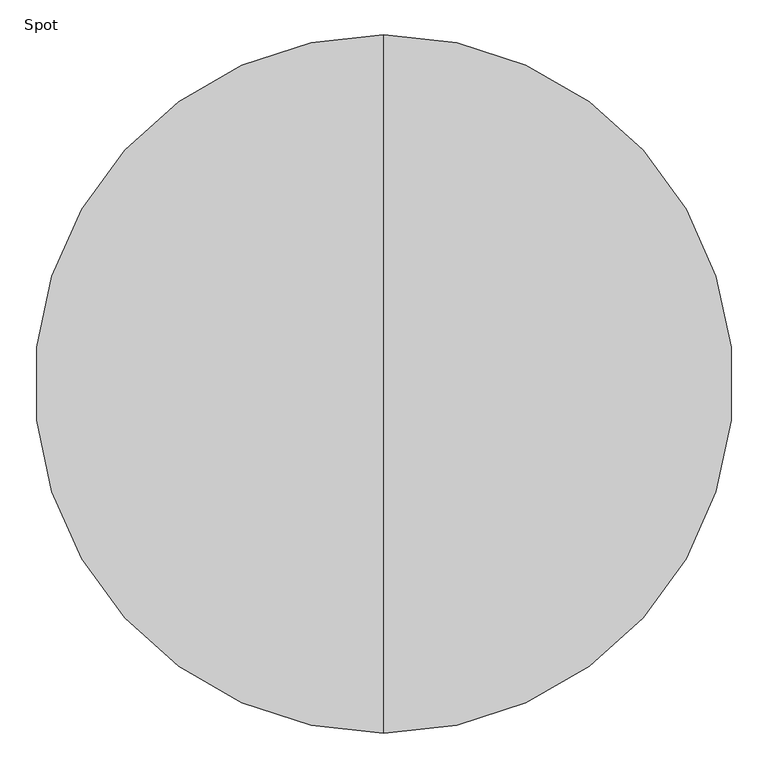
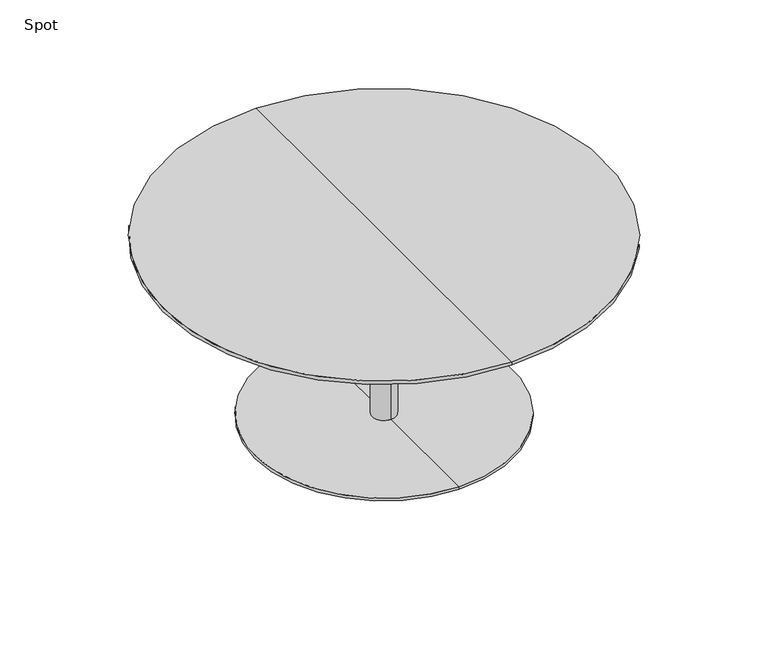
"""IFC4 building model written with IfcOpenShell, lengths in millimetres: furniture geometry, Spot : ø120x52."""

import ifcopenshell
import ifcopenshell.guid

model = None  # the IFC model being written
_history = None  # IfcOwnerHistory: only IFC2X3 demands one
_inside = {}  # id of a spatial element -> (the spatial element, [elements in it])
_under = {}  # id of a project, library or spatial element -> (it, [spatial elements below it])
_declared = {}  # id of a project -> (the project, [libraries it declares])
_typed = {}  # id of a type object -> (the type object, [elements of that type])
_made_of = {}  # id of a material, layer set ... -> (it, [elements and type objects made of it])


def new_model(schema):
    """Start an empty IFC model of exactly this schema.

    Asked for "IFC4X3", IfcOpenShell would pick the latest addendum, in which some entities
    have other attributes; the version numbers below select the first issue.
    IFC2X3 requires an IfcOwnerHistory on every rooted entity: one is made here for all.
    """
    global model, _history
    if schema == "IFC4X3":
        model = ifcopenshell.file(schema_version=(4, 3, 0, 0))
    else:
        model = ifcopenshell.file(schema=schema)
    _inside.clear()
    _under.clear()
    _declared.clear()
    _typed.clear()
    _made_of.clear()
    _history = None
    if model.schema == "IFC2X3":
        org = make("IfcOrganization", Name="unknown")
        user = make(
            "IfcPersonAndOrganization",
            ThePerson=make("IfcPerson", FamilyName="unknown"),
            TheOrganization=org,
        )
        app = make(
            "IfcApplication",
            ApplicationDeveloper=org,
            Version="unknown",
            ApplicationFullName="unknown",
            ApplicationIdentifier="unknown",
        )
        _history = make(
            "IfcOwnerHistory",
            OwningUser=user,
            OwningApplication=app,
            ChangeAction="ADDED",
            CreationDate=0,
        )
    return model


def make(cls, **values):
    """One entity of the class cls with the attributes given. An attribute that is None is left unset."""
    return model.create_entity(
        cls, **{name: value for name, value in values.items() if value is not None}
    )


def rooted(cls, **values):
    """An entity with a GlobalId (a new one), such as an element, a storey or a relation."""
    return make(cls, GlobalId=ifcopenshell.guid.new(), OwnerHistory=_history, **values)


def si_unit(unit_type, name, prefix=None):
    """IfcSIUnit, for example si_unit("LENGTHUNIT", "METRE", prefix="MILLI")."""
    return make("IfcSIUnit", UnitType=unit_type, Prefix=prefix, Name=name)


def assignment(units):
    """IfcUnitAssignment: the units of a project."""
    return None if units is None else make("IfcUnitAssignment", Units=units)


def point(xyz):
    """IfcCartesianPoint."""
    return None if xyz is None else make("IfcCartesianPoint", Coordinates=xyz)


def direction(xyz):
    """IfcDirection."""
    return None if xyz is None else make("IfcDirection", DirectionRatios=xyz)


def frame(location, z_axis=None, x_axis=None):
    """IfcAxis2Placement3D, a coordinate frame: its origin and axes. An axis left out is left unset."""
    return make(
        "IfcAxis2Placement3D",
        Location=point(location),
        Axis=direction(z_axis),
        RefDirection=direction(x_axis),
    )


def origin():
    """The frame at (0, 0, 0) with its axes left unset."""
    return frame((0.0, 0.0, 0.0))


def place(relative_to, where):
    """IfcLocalPlacement: puts the frame where relative to a parent placement (None: the world)."""
    return make(
        "IfcLocalPlacement", PlacementRelTo=relative_to, RelativePlacement=where
    )


def context(
    kind, dimensions, precision=None, world=None, true_north=None, identifier=None
):
    """IfcGeometricRepresentationContext, for example the 3D "Model" context."""
    return make(
        "IfcGeometricRepresentationContext",
        ContextIdentifier=identifier,
        ContextType=kind,
        CoordinateSpaceDimension=dimensions,
        Precision=precision,
        WorldCoordinateSystem=world,
        TrueNorth=true_north,
    )


def project(units=None, contexts=None):
    """IfcProject with its units and contexts."""
    return rooted(
        "IfcProject",
        Name="project",
        RepresentationContexts=contexts,
        UnitsInContext=assignment(units),
    )


def spatial(cls, under=None, at=None, **own):
    """A site, building, storey or space (cls), placed at a placement, below another one or the project."""
    s = rooted(cls, ObjectPlacement=at, **own)
    if under is not None:
        _under.setdefault(under.id(), (under, []))[1].append(s)
    return s


def polyline(points):
    """IfcPolyline through the points."""
    return make("IfcPolyline", Points=[point(p) for p in points])


def circle_curve(where, radius):
    """IfcCircle in the frame where."""
    return make("IfcCircle", Position=where, Radius=radius)


def shape(context_of_items, identifier, shape_type, items):
    """IfcShapeRepresentation: the items that make up one representation, for example the "Body"."""
    return make(
        "IfcShapeRepresentation",
        ContextOfItems=context_of_items,
        RepresentationIdentifier=identifier,
        RepresentationType=shape_type,
        Items=items,
    )


def source(mapping_origin, context_of_items, identifier, shape_type, items):
    """IfcRepresentationMap: a shape defined once, which mapped items show again and again."""
    return make(
        "IfcRepresentationMap",
        MappingOrigin=mapping_origin,
        MappedRepresentation=shape(context_of_items, identifier, shape_type, items),
    )


def transform(
    local_origin,
    x_axis=None,
    y_axis=None,
    z_axis=None,
    scale=None,
    scale2=None,
    scale3=None,
    uniform=True,
):
    """IfcCartesianTransformationOperator3D, or its non-uniform kind. x_axis, y_axis, z_axis: its Axis1, 2, 3."""
    if uniform:
        return make(
            "IfcCartesianTransformationOperator3D",
            Axis1=direction(x_axis),
            Axis2=direction(y_axis),
            LocalOrigin=point(local_origin),
            Scale=scale,
            Axis3=direction(z_axis),
        )
    return make(
        "IfcCartesianTransformationOperator3DnonUniform",
        Axis1=direction(x_axis),
        Axis2=direction(y_axis),
        LocalOrigin=point(local_origin),
        Scale=scale,
        Axis3=direction(z_axis),
        Scale2=scale2,
        Scale3=scale3,
    )


def mapped(mapping_source, mapping_target):
    """IfcMappedItem: shows the shape of a source again, moved by a transform."""
    return make(
        "IfcMappedItem", MappingSource=mapping_source, MappingTarget=mapping_target
    )


def made_of(thing, what):
    """Note that an element or type object is made of a material, layer set ...; save() writes the relation."""
    if what is not None:
        _made_of.setdefault(what.id(), (what, []))[1].append(thing)
    return thing


def element(
    cls,
    number,
    at=None,
    inside=None,
    cuts=None,
    type_object=None,
    material=None,
    context=None,
    identifier="Body",
    shape_type=None,
    held_by="IfcProductDefinitionShape",
    body=None,
    shapes=None,
    **own,
):
    """One element of the class cls, such as IfcWall. Its Tag is "e" and its number.

    at: its placement. inside: the storey or other place that contains it. cuts: it is an
    opening in that element (IfcRelVoidsElement). A single representation is given by context,
    identifier, shape_type and body (its items); several are given by shapes. held_by: the class
    of the entity that holds the representations. save() writes the other relations.
    """
    e = rooted(cls, Tag="e%d" % number, ObjectPlacement=at, **own)
    if body is not None:
        shapes = [shape(context, identifier, shape_type, body)]
    if shapes is not None:
        e.Representation = make(held_by, Representations=shapes)
    if inside is not None:
        _inside.setdefault(inside.id(), (inside, []))[1].append(e)
    if cuts is not None:
        rooted(
            "IfcRelVoidsElement", RelatingBuildingElement=cuts, RelatedOpeningElement=e
        )
    if type_object is not None:
        _typed.setdefault(type_object.id(), (type_object, []))[1].append(e)
    return made_of(e, material)


def aggregate(whole, parts):
    """IfcRelAggregates: a whole, such as a stair, and the parts it consists of."""
    return rooted("IfcRelAggregates", RelatingObject=whole, RelatedObjects=parts)


def save(model, path):
    """Write the relations noted so far, then the file.

    IfcRelAggregates (storeys below a building ...), IfcRelContainedInSpatialStructure (elements
    in a storey), IfcRelDefinesByType, IfcRelAssociatesMaterial and IfcRelDeclares: one each for
    every whole, place, type object, material and project.
    """
    for whole, parts in _under.values():
        aggregate(whole, parts)
    for where, things in _inside.values():
        rooted(
            "IfcRelContainedInSpatialStructure",
            RelatedElements=things,
            RelatingStructure=where,
        )
    for kind, things in _typed.values():
        rooted("IfcRelDefinesByType", RelatedObjects=things, RelatingType=kind)
    for what, things in _made_of.values():
        rooted("IfcRelAssociatesMaterial", RelatedObjects=things, RelatingMaterial=what)
    for by, libraries in _declared.values():
        rooted("IfcRelDeclares", RelatingContext=by, RelatedDefinitions=libraries)
    model.write(path)


def plane_surface(at):
    """IfcPlane: the flat surface through the origin of the frame at, square to its z axis."""
    return make("IfcPlane", Position=at)


def cylinder_surface(at, radius):
    """IfcCylindricalSurface: all points at the distance radius from the z axis of the frame at."""
    return make("IfcCylindricalSurface", Position=at, Radius=radius)


def revolved_surface(curve, axis_point, axis_direction):
    """IfcSurfaceOfRevolution: the curve turned about the line through axis_point along axis_direction."""
    return make(
        "IfcSurfaceOfRevolution",
        SweptCurve=make("IfcArbitraryOpenProfileDef", ProfileType="CURVE", Curve=curve),
        AxisPosition=make("IfcAxis1Placement", Location=point(axis_point), Axis=direction(axis_direction)),
    )


def advanced_brep(points, edges, surfaces, faces):
    """IfcAdvancedBrep: a solid bounded by faces that lie on surfaces and meet in shared edges.

    An edge is (start, end): straight between two places in points (the first is 0);
    or (start, end, curve); or (start, end, curve, False) where it runs against its curve.
    A face is (place in surfaces, loops), or (place, loops, False) where it looks against
    its surface's normal. A loop lists edges by number (the first is 1), with a minus sign
    where the edge is run from its end to its start. The first loop is the outer one.
    """
    corners = [point(p) for p in points]
    vertices = [make("IfcVertexPoint", VertexGeometry=c) for c in corners]
    made = []
    for start, end, *more in edges:
        made.append(
            make(
                "IfcEdgeCurve",
                EdgeStart=vertices[start],
                EdgeEnd=vertices[end],
                EdgeGeometry=more[0] if more else make("IfcPolyline", Points=[corners[start], corners[end]]),
                SameSense=more[1] if len(more) > 1 else True,
            )
        )
    hull = []
    for where, loops, *sense in faces:
        bounds = []
        for j, loop in enumerate(loops):
            ring = [make("IfcOrientedEdge", EdgeElement=made[abs(k) - 1], Orientation=k > 0) for k in loop]
            bounds.append(
                make(
                    "IfcFaceOuterBound" if j == 0 else "IfcFaceBound",
                    Bound=make("IfcEdgeLoop", EdgeList=ring),
                    Orientation=True,
                )
            )
        hull.append(make("IfcAdvancedFace", Bounds=bounds, FaceSurface=surfaces[where], SameSense=sense[0] if sense else True))
    return make("IfcAdvancedBrep", Outer=make("IfcClosedShell", CfsFaces=hull))


def spot_f8256496(model_context):
    return source(origin(), model_context, "Body", "AdvancedBrep", [
        advanced_brep(
        [(0.0, -600.0, 520.0), (0.0, 600.0, 520.0), (0.0, 0.0, 520.0), (0.0, 600.0, 510.25), (0.0, -600.0, 510.25), (0.0, 0.0, 498.0), (0.0, -554.2823776, 498.0), (0.0, 554.2823776, 498.0)],
        [
            (0, 1, circle_curve(frame((0.0, 0.0, 520.0), z_axis=(0.0, 0.0, 1.0), x_axis=(0.0, -1.0, 0.0)), 600.0)),
            (1, 2),
            (2, 0),
            (3, 4, circle_curve(frame((0.0, 0.0, 510.25), z_axis=(0.0, 0.0, 1.0), x_axis=(0.0, -1.0, 0.0)), 600.0)),
            (4, 0),
            (0, 1, circle_curve(frame((0.0, 0.0, 520.0), z_axis=(0.0, 0.0, -1.0), x_axis=(0.0, -1.0, 0.0)), 600.0)),
            (1, 3),
            (5, 6),
            (6, 7, circle_curve(frame((0.0, 0.0, 498.0), z_axis=(0.0, 0.0, -1.0), x_axis=(0.0, -1.0, 0.0)), 554.2823776)),
            (7, 5),
            (7, 6, circle_curve(frame((0.0, 0.0, 498.0), z_axis=(0.0, 0.0, -1.0), x_axis=(0.0, -1.0, 0.0)), 554.2823776)),
            (4, 3, circle_curve(frame((0.0, 0.0, 510.25), z_axis=(0.0, 0.0, 1.0), x_axis=(0.0, -1.0, 0.0)), 600.0)),
            (6, 4),
            (3, 7),
        ],
        [
            plane_surface(frame((0.0, 0.0, 520.0), z_axis=(0.0, 0.0, 1.0), x_axis=(0.0, -1.0, 0.0))),
            cylinder_surface(frame((0.0, 0.0, 600.0), z_axis=(0.0, 0.0, -1.0), x_axis=(0.0, -1.0, 0.0)), 600.0),
            plane_surface(frame((0.0, 0.0, 498.0), z_axis=(0.0, 0.0, -1.0), x_axis=(0.0, -1.0, 0.0))),
            revolved_surface(polyline([(0.0, -600.0, 510.25), (0.0, -554.2823776, 498.0)]), (0.0, 0.0, 600.0), (0.0, 0.0, -1.0)),
        ],
        [
            (0, [[1, 2, 3]]),
            (1, [[4, 5, 6, 7]]),
            (2, [[8, 9, 10]]),
            (2, [[-10, 11, -8]]),
            (0, [[-6, -3, -2]]),
            (1, [[12, -7, -1, -5]]),
            (3, [[-9, 13, -4, 14]]),
            (3, [[-11, -14, -12, -13]]),
        ],
    ),
        advanced_brep(
        [(0.0, 32.0, 10.0), (0.0, -32.0, 10.0), (0.0, -32.0, 467.406916), (0.0, 32.0, 467.406916), (0.0, 350.0, 10.0), (0.0, -350.0, 10.0), (0.0, 350.0, 2.0), (0.0, -350.0, 2.0), (0.0, 0.0, 2.0), (0.0, 150.0, 498.0), (0.0, -150.0, 498.0), (0.0, 0.0, 498.0), (0.0, 150.0, 486.7213673), (0.0, -150.0, 486.7213673)],
        [
            (0, 1, circle_curve(frame((0.0, 0.0, 10.0), z_axis=(0.0, 0.0, 1.0), x_axis=(0.0, -1.0, 0.0)), 32.0)),
            (1, 2),
            (2, 3, circle_curve(frame((0.0, 0.0, 467.406916), z_axis=(0.0, 0.0, -1.0), x_axis=(0.0, -1.0, 0.0)), 32.0)),
            (3, 0),
            (1, 0, circle_curve(frame((0.0, 0.0, 10.0), z_axis=(0.0, 0.0, 1.0), x_axis=(0.0, -1.0, 0.0)), 32.0)),
            (3, 2, circle_curve(frame((0.0, 0.0, 467.406916), z_axis=(0.0, 0.0, -1.0), x_axis=(0.0, -1.0, 0.0)), 32.0)),
            (4, 5, circle_curve(frame((0.0, 0.0, 10.0), z_axis=(0.0, 0.0, 1.0), x_axis=(0.0, -1.0, 0.0)), 350.0)),
            (5, 1),
            (0, 4),
            (5, 4, circle_curve(frame((0.0, 0.0, 10.0), z_axis=(0.0, 0.0, 1.0), x_axis=(0.0, -1.0, 0.0)), 350.0)),
            (6, 7, circle_curve(frame((0.0, 0.0, 2.0), z_axis=(0.0, 0.0, 1.0), x_axis=(0.0, -1.0, 0.0)), 350.0)),
            (7, 5),
            (4, 6),
            (7, 6, circle_curve(frame((0.0, 0.0, 2.0), z_axis=(0.0, 0.0, 1.0), x_axis=(0.0, -1.0, 0.0)), 350.0)),
            (8, 7),
            (6, 8),
            (9, 10, circle_curve(frame((0.0, 0.0, 498.0), z_axis=(0.0, 0.0, 1.0), x_axis=(0.0, -1.0, 0.0)), 150.0)),
            (10, 11),
            (11, 9),
            (10, 9, circle_curve(frame((0.0, 0.0, 498.0), z_axis=(0.0, 0.0, 1.0), x_axis=(0.0, -1.0, 0.0)), 150.0)),
            (12, 13, circle_curve(frame((0.0, 0.0, 486.7213673), z_axis=(0.0, 0.0, 1.0), x_axis=(0.0, -1.0, 0.0)), 150.0)),
            (13, 10),
            (9, 12),
            (13, 12, circle_curve(frame((0.0, 0.0, 486.7213673), z_axis=(0.0, 0.0, 1.0), x_axis=(0.0, -1.0, 0.0)), 150.0)),
            (2, 13),
            (12, 3),
        ],
        [
            cylinder_surface(frame((0.0, 0.0, 860.0), z_axis=(0.0, 0.0, -1.0), x_axis=(0.0, -1.0, 0.0)), 32.0),
            plane_surface(frame((0.0, 0.0, 10.0), z_axis=(0.0, 0.0, 1.0), x_axis=(0.0, -1.0, 0.0))),
            cylinder_surface(frame((0.0, 0.0, 860.0), z_axis=(0.0, 0.0, -1.0), x_axis=(0.0, -1.0, 0.0)), 350.0),
            plane_surface(frame((0.0, 0.0, 2.0), z_axis=(0.0, 0.0, -1.0), x_axis=(0.0, -1.0, 0.0))),
            plane_surface(frame((0.0, 0.0, 498.0), z_axis=(0.0, 0.0, 1.0), x_axis=(0.0, -1.0, 0.0))),
            cylinder_surface(frame((0.0, 0.0, 860.0), z_axis=(0.0, 0.0, -1.0), x_axis=(0.0, -1.0, 0.0)), 150.0),
            revolved_surface(polyline([(0.0, -150.0, 486.7213673), (0.0, -32.0, 467.406916)]), (0.0, 0.0, 860.0), (0.0, 0.0, -1.0)),
        ],
        [
            (0, [[1, 2, 3, 4]]),
            (0, [[5, -4, 6, -2]]),
            (1, [[7, 8, -1, 9]]),
            (1, [[10, -9, -5, -8]]),
            (2, [[11, 12, -7, 13]]),
            (2, [[14, -13, -10, -12]]),
            (3, [[15, -11, 16]]),
            (3, [[-16, -14, -15]]),
            (4, [[17, 18, 19]]),
            (4, [[20, -19, -18]]),
            (5, [[21, 22, -17, 23]]),
            (5, [[24, -23, -20, -22]]),
            (6, [[-3, 25, -21, 26]]),
            (6, [[-6, -26, -24, -25]]),
        ],
    ),
    ])


if __name__ == "__main__":
    model = new_model("IFC4")
    model_context = context("Model", 3, world=origin())
    ifc_project = project(units=[si_unit("LENGTHUNIT", "METRE", prefix="MILLI")], contexts=[model_context])
    site = spatial("IfcSite", under=ifc_project)
    building = spatial("IfcBuilding", under=site)
    placement = place(None, origin())
    spot_shape = spot_f8256496(model_context)
    element("IfcFurniture", 1, ObjectType="Spot : ø120x52", at=placement, inside=building, context=model_context, shape_type="MappedRepresentation", body=[
        mapped(spot_shape, transform((0.0, 0.0, 0.0), x_axis=(1.0, 0.0, 0.0), y_axis=(0.0, 1.0, 0.0), z_axis=(0.0, 0.0, 1.0))),
    ])
    save(model, "model.ifc")
